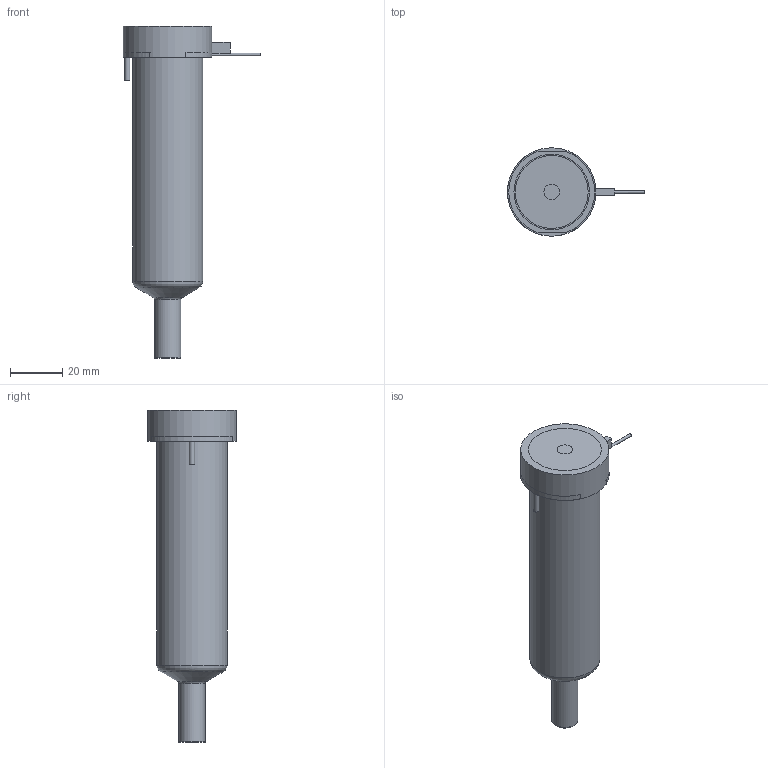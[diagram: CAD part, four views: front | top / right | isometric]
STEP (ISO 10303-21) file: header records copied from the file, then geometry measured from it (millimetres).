
FILE_DESCRIPTION(/* description */ (''),/* implementation_level */ '2;1');
FILE_NAME(/* name */ 'BXYCN13095P7U_200C_a',/* time_stamp */ '2016-02-22T15:23:32+13:00',/* author */ (''),/* organization */ (''),/* preprocessor_version */ 'ST-DEVELOPER v9',/* originating_system */ 'UGS - NX 4.0',/* authorisation */ '');
FILE_SCHEMA (('CONFIG_CONTROL_DESIGN'));
Length unit declared in the file: millimetre
Products named in the file (1): MattBE97x0ik
Bounding box: 52.65 x 34 x 127.52 mm (x, y, z)
Volume: 109143.1 mm3; surface area: 22232.2 mm2
Topology: 2 solids, 2 shells, 64 faces, 137 edges, 89 vertices
Faces by surface type: plane 29, cylinder 21, torus 7, cone 5, bspline 1, sphere 1
Full cylindrical faces by diameter (mm): 1 x2, 1.2 x1, 2 x1, 4 x1, 6 x1, 9.61 x1, 9.995 x2, 12.6 x1, 22.2 x1, 27 x1, 34 x1
Entity records: 1835 total; most frequent: CARTESIAN_POINT 464, DIRECTION 282, ORIENTED_EDGE 212, AXIS2_PLACEMENT_3D 122, EDGE_CURVE 106, EDGE_LOOP 102, VERTEX_POINT 82, ADVANCED_FACE 64
